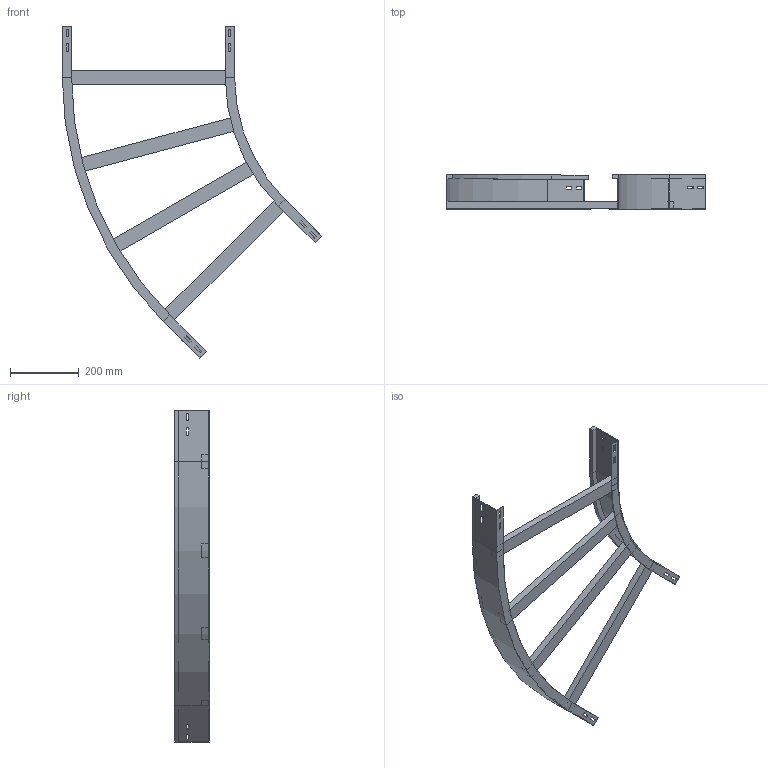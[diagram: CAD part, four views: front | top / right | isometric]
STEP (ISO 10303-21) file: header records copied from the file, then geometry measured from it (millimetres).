
FILE_DESCRIPTION (( 'STEP AP214' ), '1' );
FILE_NAME ('11B5D500.step', '2025-02-21T15:11:52', ( '' ), ( '' ), 'SwSTEP 2.0', 'SolidWorks 2023', '' );
FILE_SCHEMA (( 'AUTOMOTIVE_DESIGN' ));
Length unit declared in the file: millimetre
Products named in the file (4): A2_LONGH.INTERNO 45°_H100_R500; 11B5D500; A2_LONGH.ESTERNO 45°_H100_R500+500; TRAVERSINO_500
Assembly tree (6 placements, depth 2):
  11B5D500
    A2_LONGH.INTERNO 45°_H100_R500
    A2_LONGH.ESTERNO 45°_H100_R500+500
    TRAVERSINO_500  x4
Bounding box: 752.51 x 100 x 963.17 mm (x, y, z)
Volume: 2388031 mm3; surface area: 753775.8 mm2
Topology: 6 solids, 6 shells, 140 faces, 352 edges, 224 vertices
Faces by surface type: plane 132, cylinder 8
Entity records: 3829 total; most frequent: CARTESIAN_POINT 647, ORIENTED_EDGE 632, DIRECTION 594, EDGE_CURVE 316, VECTOR 300, LINE 300, VERTEX_POINT 200, EDGE_LOOP 154
